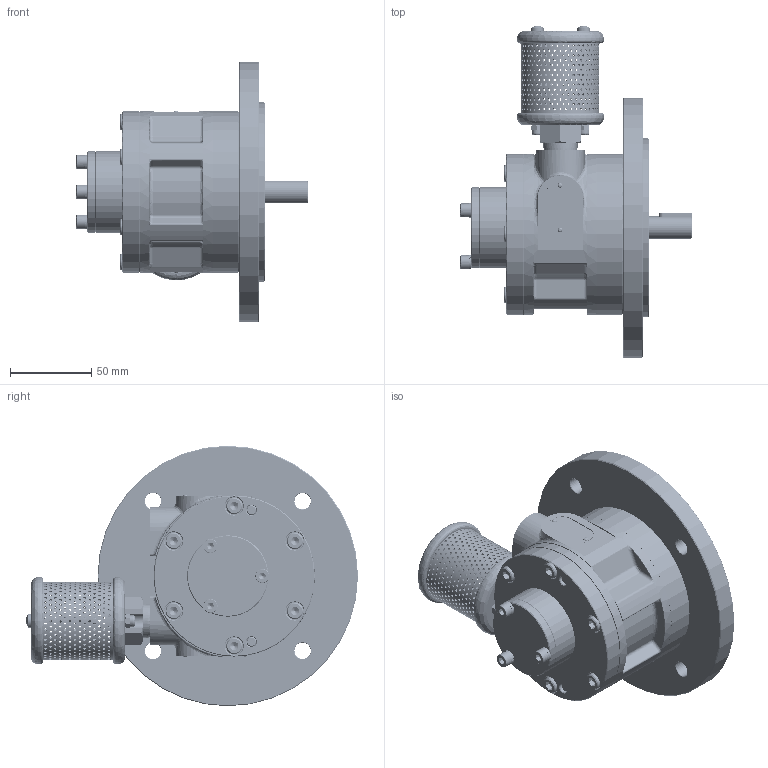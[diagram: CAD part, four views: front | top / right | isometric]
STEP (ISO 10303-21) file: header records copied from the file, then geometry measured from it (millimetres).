
FILE_DESCRIPTION (( 'STEP AP214' ), '1' );
FILE_NAME ('4VMD-SGI (22-04-26).STEP', '2026-04-22T09:46:11', ( '' ), ( '' ), 'SwSTEP 2.0', 'SolidWorks 2017', '' );
FILE_SCHEMA (( 'AUTOMOTIVE_DESIGN' ));
Length unit declared in the file: millimetre
Products named in the file (2): 4VMD-SGI (22-04-26)
Bounding box: 141.95 x 203.95 x 160 mm (x, y, z)
Volume: 582876.2 mm3; surface area: 200186.7 mm2
Topology: 44 solids, 44 shells, 3728 faces, 10244 edges, 6585 vertices
Faces by surface type: cylinder 2228, cone 741, plane 557, bspline 202
Entity records: 173815 total; most frequent: CARTESIAN_POINT 72723, ORIENTED_EDGE 20300, DIRECTION 16198, EDGE_CURVE 10150, VERTEX_POINT 6581, AXIS2_PLACEMENT_3D 6258, EDGE_LOOP 5385, FACE_OUTER_BOUND 3728
